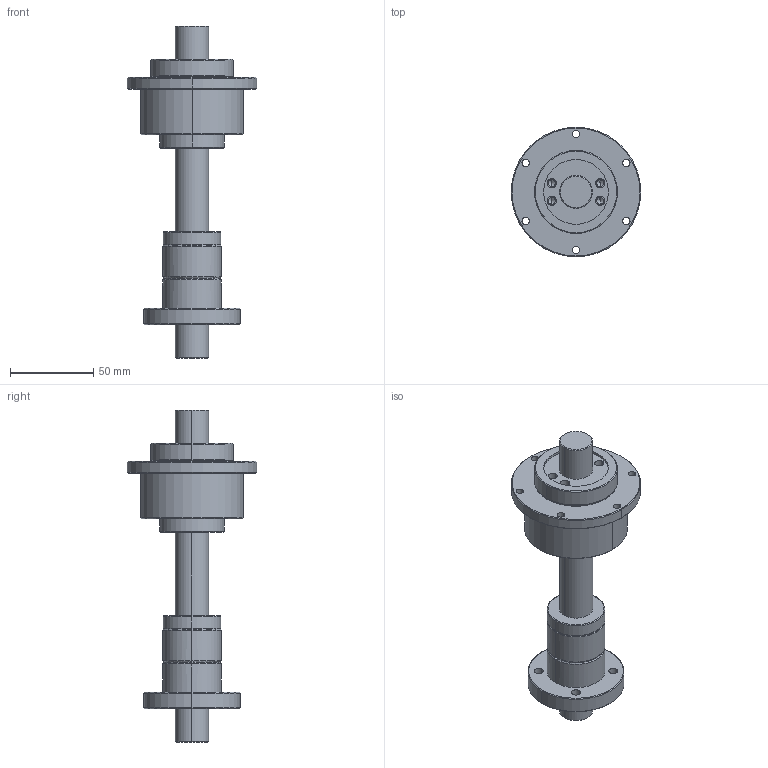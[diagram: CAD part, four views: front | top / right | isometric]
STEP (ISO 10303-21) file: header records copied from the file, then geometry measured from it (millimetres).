
FILE_DESCRIPTION (( 'STEP AP203' ), '1' );
FILE_NAME ('RBLY2020.STEP', '2014-11-13T08:57:36', ( '' ), ( '' ), 'SwSTEP 2.0', 'SolidWorks 2014', '' );
FILE_SCHEMA (( 'CONFIG_CONTROL_DESIGN' ));
Length unit declared in the file: millimetre
Products named in the file (4): SC20; RFBY2020; SLF20; RBLY2020
Assembly tree (3 placements, depth 2):
  RBLY2020
    SC20
    RFBY2020
    SLF20
Bounding box: 78 x 78 x 200 mm (x, y, z)
Volume: 241048.5 mm3; surface area: 58478.4 mm2
Topology: 5 solids, 5 shells, 165 faces, 398 edges, 246 vertices
Faces by surface type: cylinder 90, plane 33, cone 28, torus 14
Entity records: 5420 total; most frequent: CARTESIAN_POINT 983, DIRECTION 934, ORIENTED_EDGE 780, AXIS2_PLACEMENT_3D 393, EDGE_CURVE 390, VERTEX_POINT 246, CIRCLE 222, EDGE_LOOP 208
